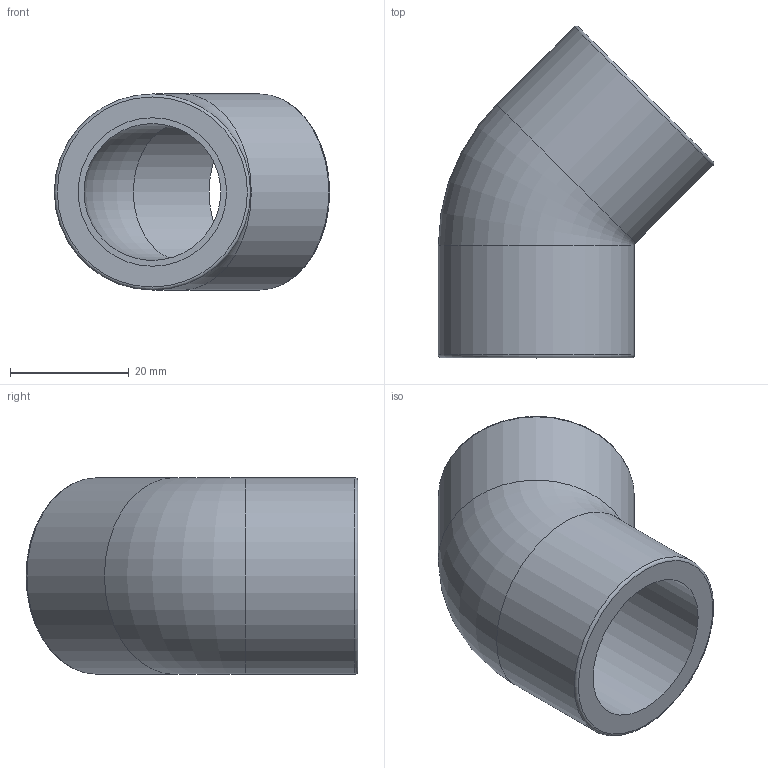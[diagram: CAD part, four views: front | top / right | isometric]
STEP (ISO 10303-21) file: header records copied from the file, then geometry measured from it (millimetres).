
FILE_DESCRIPTION(/* description */ ('PVC gomito a 45° incollaggio metrico'),/* implementation_level */ '2;1');
FILE_NAME(/* name */ 'C:\Users\POLYPIPE\Desktop\DATASET INVENTOR\LIBRERIA EFFAST\RACCORDI 3DxWEB\RDR\3D_RDRGYD\3D_RDRGYD0250.stp',/* time_stamp */ '2018-01-19T14:33:47+01:00',/* author */ ('POLYPIPE'),/* organization */ ('Polypipe Italia s.r.l.'),/* preprocessor_version */ 'ST-DEVELOPER v16.1',/* originating_system */ 'Autodesk Inventor 2016',/* authorisation */ '');
FILE_SCHEMA (('CONFIG_CONTROL_DESIGN'));
Length unit declared in the file: millimetre
Products named in the file (1): 3D_RDRGYD
Bounding box: 46.34 x 55.84 x 33 mm (x, y, z)
Volume: 19673.3 mm3; surface area: 10094.6 mm2
Topology: 1 solids, 1 shells, 12 faces, 20 edges, 12 vertices
Faces by surface type: torus 4, cylinder 4, plane 4
Full cylindrical faces by diameter (mm): 25 x2, 33 x2
Entity records: 396 total; most frequent: CARTESIAN_POINT 167, DIRECTION 46, EDGE_LOOP 24, ORIENTED_EDGE 24, AXIS2_PLACEMENT_3D 23, FACE_BOUND 12, FACE_OUTER_BOUND 12, VERTEX_POINT 12
